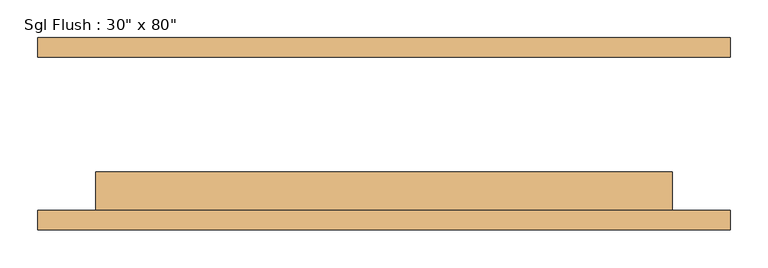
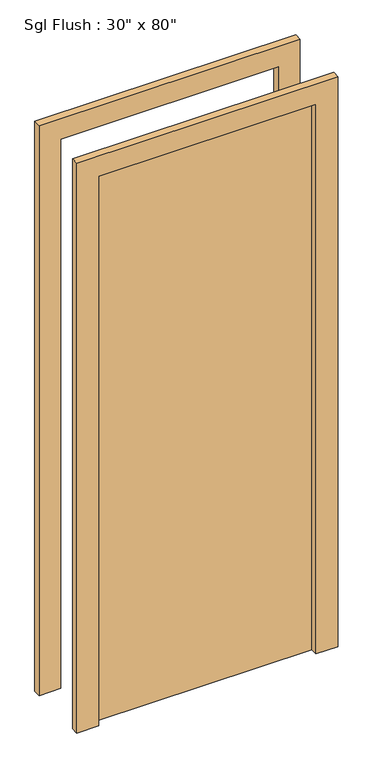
"""IFC4 building model written with IfcOpenShell, lengths in millimetres: door geometry."""

from ifc_helpers import new_model, si_unit, frame, origin, origin_with_axes, place, context, project, spatial, polyline, outline, extrude, source, transform, mapped, element, save


def door_53b1b562(model_context):
    return source(origin(), model_context, "Body", "SweptSolid", [
        extrude(outline(polyline([(2108.2, -457.2), (0.0, -457.2), (0.0, -381.0), (2032.0, -381.0), (2032.0, 381.0), (0.0, 381.0), (0.0, 457.2), (2108.2, 457.2), (2108.2, -457.2)])), frame((0.0, -127.0, 0.0), z_axis=(0.0, 1.0, 0.0), x_axis=(0.0, 0.0, 1.0)), (0.0, 0.0, 1.0), 25.4),
        extrude(outline(polyline([(2108.2, 457.2), (2108.2, -457.2), (0.0, -457.2), (0.0, -381.0), (2032.0, -381.0), (2032.0, 381.0), (0.0, 381.0), (0.0, 457.2), (2108.2, 457.2)])), frame((0.0, 101.6, 0.0), z_axis=(0.0, 1.0, 0.0), x_axis=(0.0, 0.0, 1.0)), (0.0, 0.0, 1.0), 25.4),
        extrude(outline(polyline([(381.0, -50.8), (381.0, -101.6), (-381.0, -101.6), (-381.0, -50.8), (381.0, -50.8)])), origin_with_axes(), (0.0, 0.0, 1.0), 2032.0),
    ])


if __name__ == "__main__":
    model = new_model("IFC4")
    model_context = context("Model", 3, world=origin())
    ifc_project = project(units=[si_unit("LENGTHUNIT", "METRE", prefix="MILLI")], contexts=[model_context])
    site = spatial("IfcSite", under=ifc_project)
    building = spatial("IfcBuilding", under=site)
    placement = place(None, origin())
    door_shape = door_53b1b562(model_context)
    element("IfcDoor", 1, ObjectType="Sgl Flush : 30\" x 80\"", at=placement, inside=building, context=model_context, shape_type="MappedRepresentation", body=[
        mapped(door_shape, transform((0.0, 0.0, 0.0), x_axis=(1.0, 0.0, 0.0), y_axis=(0.0, 1.0, 0.0), z_axis=(0.0, 0.0, 1.0))),
    ])
    save(model, "model.ifc")
